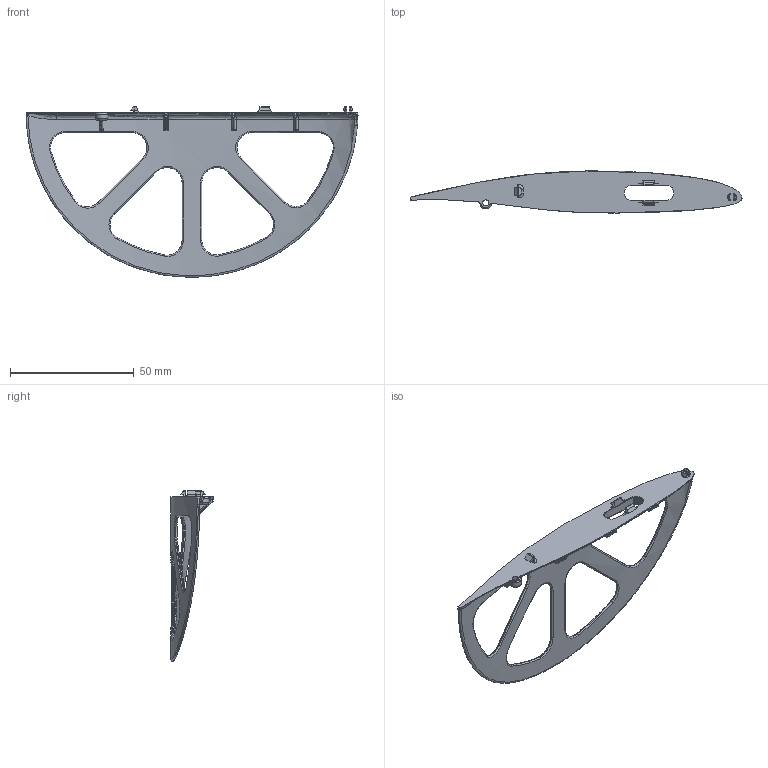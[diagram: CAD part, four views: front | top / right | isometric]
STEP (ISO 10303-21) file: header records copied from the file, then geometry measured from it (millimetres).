
FILE_DESCRIPTION (( 'STEP AP203' ), '1' );
FILE_NAME ('Mirror06-12-005-00.STEP', '2019-02-25T09:14:21', ( '' ), ( '' ), 'SwSTEP 2.0', 'SolidWorks 2014', '' );
FILE_SCHEMA (( 'CONFIG_CONTROL_DESIGN' ));
Length unit declared in the file: millimetre
Products named in the file (1): Mirror06-12-005-00
Bounding box: 134.04 x 17.02 x 68.88 mm (x, y, z)
Volume: 6104.9 mm3; surface area: 11812.9 mm2
Topology: 1 solids, 1 shells, 301 faces, 743 edges, 437 vertices
Faces by surface type: bspline 126, cylinder 84, plane 64, torus 22, cone 3, sphere 2
Entity records: 14782 total; most frequent: CARTESIAN_POINT 8629, ORIENTED_EDGE 1466, DIRECTION 994, EDGE_CURVE 733, VERTEX_POINT 436, AXIS2_PLACEMENT_3D 391, EDGE_LOOP 315, ADVANCED_FACE 301
